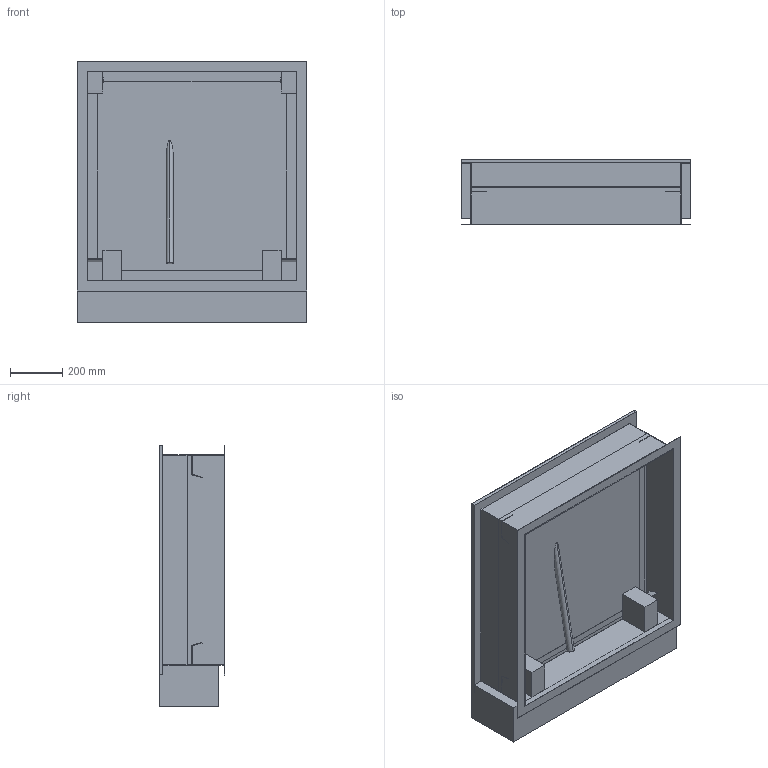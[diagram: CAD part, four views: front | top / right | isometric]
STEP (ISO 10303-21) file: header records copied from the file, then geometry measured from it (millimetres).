
FILE_DESCRIPTION((''),'2;1');
FILE_NAME('51591537','2021-02-26T11:39:14',('hrl'),('HUBER SE'),'CREO PARAMETRIC BY PTC INC, 2019224','CREO PARAMETRIC BY PTC INC, 2019224','');
FILE_SCHEMA(('AUTOMOTIVE_DESIGN { 1 0 10303 214 1 1 1 1 }'));
Length unit declared in the file: millimetre
Products named in the file (1): 51591537
Bounding box: 878 x 250 x 1000 mm (x, y, z)
Volume: 99898548.3 mm3; surface area: 4470555.9 mm2
Topology: 1 solids, 1 shells, 142 faces, 392 edges, 250 vertices
Faces by surface type: plane 110, cylinder 32
Entity records: 5218 total; most frequent: CARTESIAN_POINT 846, ORIENTED_EDGE 784, DIRECTION 758, EDGE_CURVE 392, VECTOR 306, LINE 306, VERTEX_POINT 250, AXIS2_PLACEMENT_3D 226
